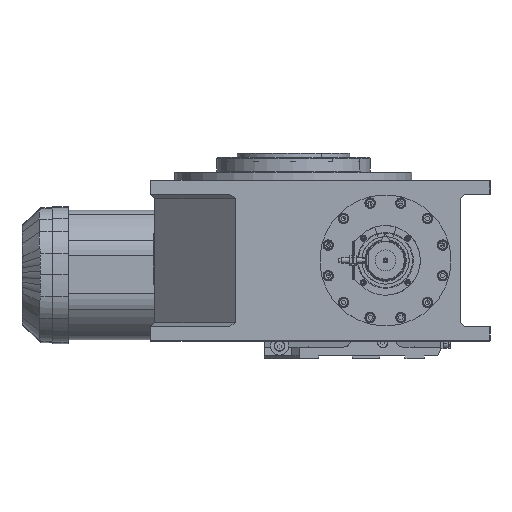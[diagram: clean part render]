
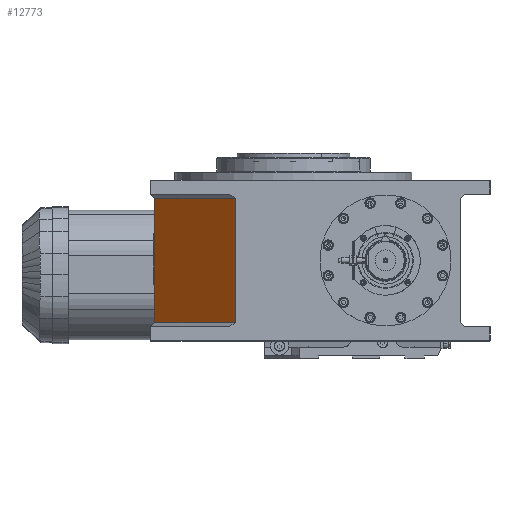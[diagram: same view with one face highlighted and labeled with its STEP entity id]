
A CAD part, top view. The second image highlights one B-rep face of the part: STEP entity #12773.
In plain terms, the highlighted planar face has unit normal (-0.707, 0, 0.707).
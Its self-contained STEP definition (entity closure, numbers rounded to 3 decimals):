
#4008 = VERTEX_POINT ( 'NONE', #89548 ) ;
#4463 = LINE ( 'NONE', #57517, #98926 ) ;
#10802 = AXIS2_PLACEMENT_3D ( 'NONE', #68354, #55360, #38299 ) ;
#12773 = ADVANCED_FACE ( 'NONE', ( #92871 ), #38784, .F. ) ;
#14445 = DIRECTION ( 'NONE',  ( 0., -1., 0. ) ) ;
#18529 = VECTOR ( 'NONE', #55848, 1000. ) ;
#20172 = ORIENTED_EDGE ( 'NONE', *, *, #60112, .F. ) ;
#22223 = DIRECTION ( 'NONE',  ( 0., -1., 0. ) ) ;
#22726 = LINE ( 'NONE', #23734, #98849 ) ;
#23734 = CARTESIAN_POINT ( 'NONE',  ( -199., 210., 83.259 ) ) ;
#25759 = LINE ( 'NONE', #80820, #18529 ) ;
#34397 = CARTESIAN_POINT ( 'NONE',  ( -83.259, 26., 199. ) ) ;
#38299 = DIRECTION ( 'NONE',  ( -0.707, 0., -0.707 ) ) ;
#38784 = PLANE ( 'NONE',  #10802 ) ;
#42945 = CARTESIAN_POINT ( 'NONE',  ( -83.259, 204., 199. ) ) ;
#45921 = CARTESIAN_POINT ( 'NONE',  ( -83.259, 210., 199. ) ) ;
#45989 = EDGE_CURVE ( 'NONE', #4008, #58749, #4463, .T. ) ;
#52974 = LINE ( 'NONE', #45921, #78348 ) ;
#55360 = DIRECTION ( 'NONE',  ( 0.707, 0., -0.707 ) ) ;
#55848 = DIRECTION ( 'NONE',  ( -0.707, 0., -0.707 ) ) ;
#57517 = CARTESIAN_POINT ( 'NONE',  ( -83.259, 26., 199. ) ) ;
#58749 = VERTEX_POINT ( 'NONE', #34397 ) ;
#59340 = EDGE_CURVE ( 'NONE', #72913, #4008, #22726, .T. ) ;
#60112 = EDGE_CURVE ( 'NONE', #74538, #58749, #52974, .T. ) ;
#61536 = CARTESIAN_POINT ( 'NONE',  ( -199., 204., 83.259 ) ) ;
#65085 = EDGE_CURVE ( 'NONE', #74538, #72913, #25759, .T. ) ;
#65448 = DIRECTION ( 'NONE',  ( 0.707, 0., 0.707 ) ) ;
#67675 = EDGE_LOOP ( 'NONE', ( #20172, #76786, #88638, #91301 ) ) ;
#68354 = CARTESIAN_POINT ( 'NONE',  ( -83.259, 210., 199. ) ) ;
#72913 = VERTEX_POINT ( 'NONE', #61536 ) ;
#74538 = VERTEX_POINT ( 'NONE', #42945 ) ;
#76786 = ORIENTED_EDGE ( 'NONE', *, *, #65085, .T. ) ;
#78348 = VECTOR ( 'NONE', #14445, 1000. ) ;
#80820 = CARTESIAN_POINT ( 'NONE',  ( -199., 204., 83.259 ) ) ;
#88638 = ORIENTED_EDGE ( 'NONE', *, *, #59340, .T. ) ;
#89548 = CARTESIAN_POINT ( 'NONE',  ( -199., 26., 83.259 ) ) ;
#91301 = ORIENTED_EDGE ( 'NONE', *, *, #45989, .T. ) ;
#92871 = FACE_OUTER_BOUND ( 'NONE', #67675, .T. ) ;
#98849 = VECTOR ( 'NONE', #22223, 1000. ) ;
#98926 = VECTOR ( 'NONE', #65448, 1000. ) ;
